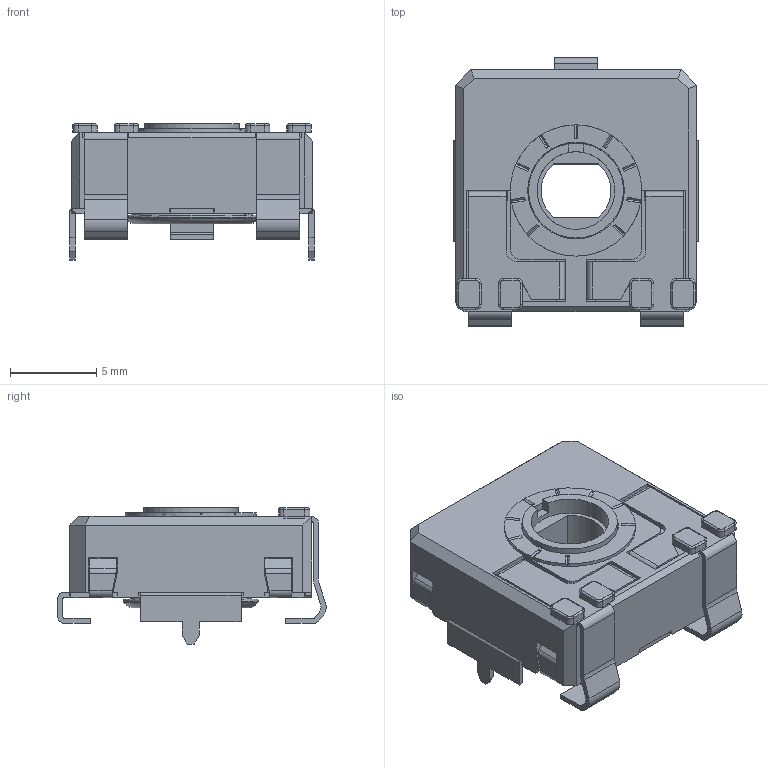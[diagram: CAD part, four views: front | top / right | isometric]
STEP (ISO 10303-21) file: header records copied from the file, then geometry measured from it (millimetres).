
FILE_DESCRIPTION(/* description */ (''),/* implementation_level */ '2;1');
FILE_NAME(/* name */ '\\SERVERACP\intercambio\Ignacio Santa Cecilia\Nueva WEB 2025\CA14 - CE14\CA14NVSMD CY.stp',/* time_stamp */ '2025-07-01T12:12:56+02:00',/* author */ ('CEM'),/* organization */ (''),/* preprocessor_version */ 'ST-DEVELOPER v17',/* originating_system */ 'Autodesk Inventor 2018',/* authorisation */ '');
FILE_SCHEMA (('AUTOMOTIVE_DESIGN { 1 0 10303 214 3 1 1 }'));
Length unit declared in the file: millimetre
Products named in the file (1): CARCASA CA14 PGA
Bounding box: 14.15 x 15.55 x 7.9 mm (x, y, z)
Volume: 544.6 mm3; surface area: 1517.1 mm2
Topology: 1 solids, 1 shells, 571 faces, 1623 edges, 1039 vertices
Faces by surface type: plane 425, cylinder 109, torus 23, bspline 8, cone 6
Full cylindrical faces by diameter (mm): 4.5 x1, 5.5 x1, 5.6 x1, 5.752 x1, 6.8 x1, 7.6 x1
Entity records: 18799 total; most frequent: CARTESIAN_POINT 3531, ORIENTED_EDGE 3246, DIRECTION 3009, EDGE_CURVE 1623, LINE 1275, VECTOR 1275, VERTEX_POINT 1039, AXIS2_PLACEMENT_3D 867
